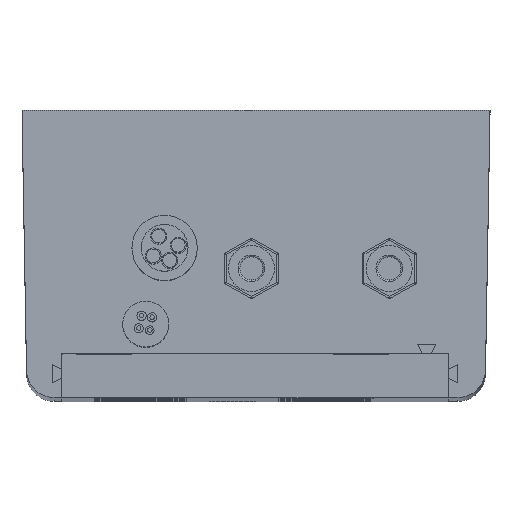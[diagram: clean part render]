
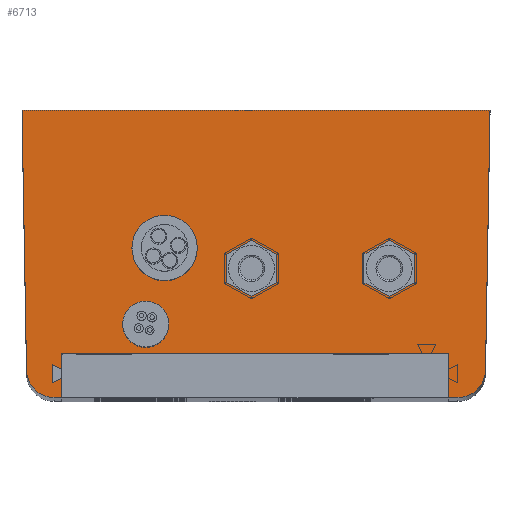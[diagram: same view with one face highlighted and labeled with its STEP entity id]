
A CAD part, top view. The second image highlights one B-rep face of the part: STEP entity #6713.
In plain terms, the highlighted planar face has unit normal (0, 0, 1).
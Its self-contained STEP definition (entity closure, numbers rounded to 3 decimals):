
#40 = VECTOR ( 'NONE', #7211, 1000. ) ;
#47 = CARTESIAN_POINT ( 'NONE',  ( 17.563, 1.831, 0. ) ) ;
#180 = CARTESIAN_POINT ( 'NONE',  ( 0.063, 1.831, 0. ) ) ;
#441 = LINE ( 'NONE', #8134, #2790 ) ;
#561 = CARTESIAN_POINT ( 'NONE',  ( -21.406, -12.219, 0. ) ) ;
#616 = VECTOR ( 'NONE', #10740, 1000. ) ;
#723 = EDGE_CURVE ( 'NONE', #6663, #7367, #10561, .T. ) ;
#737 = DIRECTION ( 'NONE',  ( 1., 0., 0. ) ) ;
#780 = DIRECTION ( 'NONE',  ( 0.017, -1., 0. ) ) ;
#967 = EDGE_CURVE ( 'NONE', #12152, #2223, #3503, .T. ) ;
#985 = VERTEX_POINT ( 'NONE', #10590 ) ;
#1076 = EDGE_CURVE ( 'NONE', #1430, #12152, #3982, .T. ) ;
#1206 = CARTESIAN_POINT ( 'NONE',  ( 21.473, -12.219, 0. ) ) ;
#1251 = CIRCLE ( 'NONE', #2307, 2.5 ) ;
#1396 = CARTESIAN_POINT ( 'NONE',  ( -24.9, 19.031, 0. ) ) ;
#1415 = ORIENTED_EDGE ( 'NONE', *, *, #9500, .T. ) ;
#1430 = VERTEX_POINT ( 'NONE', #1206 ) ;
#1625 = LINE ( 'NONE', #9828, #10107 ) ;
#1940 = EDGE_CURVE ( 'NONE', #10416, #10076, #10154, .T. ) ;
#2206 = CARTESIAN_POINT ( 'NONE',  ( 21.473, -7.469, 0. ) ) ;
#2223 = VERTEX_POINT ( 'NONE', #2503 ) ;
#2307 = AXIS2_PLACEMENT_3D ( 'NONE', #7626, #14334, #737 ) ;
#2503 = CARTESIAN_POINT ( 'NONE',  ( -20.587, -7.469, 0. ) ) ;
#2638 = DIRECTION ( 'NONE',  ( 1., 0., 0. ) ) ;
#2790 = VECTOR ( 'NONE', #9142, 1000. ) ;
#2975 = FACE_BOUND ( 'NONE', #6816, .T. ) ;
#2987 = DIRECTION ( 'NONE',  ( 0.017, 1., 0. ) ) ;
#3027 = CARTESIAN_POINT ( 'NONE',  ( 22.532, -12.219, 0. ) ) ;
#3222 = VECTOR ( 'NONE', #780, 1000. ) ;
#3313 = ORIENTED_EDGE ( 'NONE', *, *, #967, .F. ) ;
#3503 = LINE ( 'NONE', #9641, #616 ) ;
#3576 = DIRECTION ( 'NONE',  ( 1., 0., 0. ) ) ;
#3623 = ORIENTED_EDGE ( 'NONE', *, *, #1940, .T. ) ;
#3657 = CARTESIAN_POINT ( 'NONE',  ( -24.406, -9.271, 0. ) ) ;
#3792 = CIRCLE ( 'NONE', #10862, 2.5 ) ;
#3841 = VECTOR ( 'NONE', #10789, 1000. ) ;
#3982 = LINE ( 'NONE', #12931, #3841 ) ;
#4001 = VECTOR ( 'NONE', #8678, 1000. ) ;
#4162 = CARTESIAN_POINT ( 'NONE',  ( -24.56, -0.429, 0. ) ) ;
#4217 = ORIENTED_EDGE ( 'NONE', *, *, #723, .F. ) ;
#4227 = AXIS2_PLACEMENT_3D ( 'NONE', #4841, #9300, #3576 ) ;
#4235 = CARTESIAN_POINT ( 'NONE',  ( -20.587, -12.219, 0. ) ) ;
#4246 = EDGE_CURVE ( 'NONE', #7367, #6663, #1251, .T. ) ;
#4294 = EDGE_CURVE ( 'NONE', #12557, #14041, #8329, .T. ) ;
#4841 = CARTESIAN_POINT ( 'NONE',  ( 0., 0., 0. ) ) ;
#5233 = EDGE_CURVE ( 'NONE', #13995, #10416, #13805, .T. ) ;
#5247 = LINE ( 'NONE', #4162, #3222 ) ;
#5596 = CARTESIAN_POINT ( 'NONE',  ( 15.063, 1.831, 0. ) ) ;
#5658 = CARTESIAN_POINT ( 'NONE',  ( -2.437, 1.831, 0. ) ) ;
#5962 = PLANE ( 'NONE',  #4227 ) ;
#6196 = AXIS2_PLACEMENT_3D ( 'NONE', #8423, #14299, #2638 ) ;
#6266 = DIRECTION ( 'NONE',  ( 1., 0., 0. ) ) ;
#6282 = ORIENTED_EDGE ( 'NONE', *, *, #13312, .T. ) ;
#6368 = DIRECTION ( 'NONE',  ( 1., 0., 0. ) ) ;
#6663 = VERTEX_POINT ( 'NONE', #5658 ) ;
#6713 = ADVANCED_FACE ( 'NONE', ( #11087, #2975, #13259 ), #5962, .T. ) ;
#6718 = VECTOR ( 'NONE', #12632, 1000. ) ;
#6816 = EDGE_LOOP ( 'NONE', ( #11449, #7350 ) ) ;
#7211 = DIRECTION ( 'NONE',  ( 0., -1., 0. ) ) ;
#7350 = ORIENTED_EDGE ( 'NONE', *, *, #9020, .F. ) ;
#7367 = VERTEX_POINT ( 'NONE', #9640 ) ;
#7626 = CARTESIAN_POINT ( 'NONE',  ( 0.063, 1.831, 0. ) ) ;
#7934 = DIRECTION ( 'NONE',  ( 1., 0., 0. ) ) ;
#7977 = EDGE_CURVE ( 'NONE', #11462, #9758, #8192, .T. ) ;
#8134 = CARTESIAN_POINT ( 'NONE',  ( -24.437, -12.219, 0. ) ) ;
#8192 = LINE ( 'NONE', #10909, #4001 ) ;
#8255 = CARTESIAN_POINT ( 'NONE',  ( 25.531, -9.271, 0. ) ) ;
#8288 = AXIS2_PLACEMENT_3D ( 'NONE', #14414, #9880, #6266 ) ;
#8329 = CIRCLE ( 'NONE', #10900, 3. ) ;
#8345 = CARTESIAN_POINT ( 'NONE',  ( -20.587, -12.219, 0. ) ) ;
#8423 = CARTESIAN_POINT ( 'NONE',  ( -21.406, -9.219, 0. ) ) ;
#8678 = DIRECTION ( 'NONE',  ( -1., 0., 0. ) ) ;
#8748 = ORIENTED_EDGE ( 'NONE', *, *, #7977, .T. ) ;
#9020 = EDGE_CURVE ( 'NONE', #985, #10738, #3792, .T. ) ;
#9097 = DIRECTION ( 'NONE',  ( 0., 0., 1. ) ) ;
#9142 = DIRECTION ( 'NONE',  ( 1., 0., 0. ) ) ;
#9300 = DIRECTION ( 'NONE',  ( 0., 0., 1. ) ) ;
#9378 = ORIENTED_EDGE ( 'NONE', *, *, #9987, .T. ) ;
#9500 = EDGE_CURVE ( 'NONE', #9758, #13995, #5247, .T. ) ;
#9586 = EDGE_LOOP ( 'NONE', ( #1415, #13373, #3623, #11474, #3313, #14162, #6282, #12304, #9378, #8748 ) ) ;
#9640 = CARTESIAN_POINT ( 'NONE',  ( 2.563, 1.831, 0. ) ) ;
#9641 = CARTESIAN_POINT ( 'NONE',  ( -20.587, -7.469, 0. ) ) ;
#9758 = VERTEX_POINT ( 'NONE', #1396 ) ;
#9828 = CARTESIAN_POINT ( 'NONE',  ( 25.685, -0.448, 0. ) ) ;
#9880 = DIRECTION ( 'NONE',  ( 0., 0., 1. ) ) ;
#9987 = EDGE_CURVE ( 'NONE', #14041, #11462, #1625, .T. ) ;
#10044 = CARTESIAN_POINT ( 'NONE',  ( 26.025, 19.031, 0. ) ) ;
#10076 = VERTEX_POINT ( 'NONE', #4235 ) ;
#10107 = VECTOR ( 'NONE', #2987, 1000. ) ;
#10154 = LINE ( 'NONE', #11669, #6718 ) ;
#10416 = VERTEX_POINT ( 'NONE', #561 ) ;
#10479 = DIRECTION ( 'NONE',  ( 0., 0., 1. ) ) ;
#10561 = CIRCLE ( 'NONE', #14150, 2.5 ) ;
#10590 = CARTESIAN_POINT ( 'NONE',  ( 12.563, 1.831, 0. ) ) ;
#10738 = VERTEX_POINT ( 'NONE', #47 ) ;
#10740 = DIRECTION ( 'NONE',  ( -1., 0., 0. ) ) ;
#10789 = DIRECTION ( 'NONE',  ( 0., 1., 0. ) ) ;
#10862 = AXIS2_PLACEMENT_3D ( 'NONE', #5596, #9097, #7934 ) ;
#10900 = AXIS2_PLACEMENT_3D ( 'NONE', #13244, #14520, #6368 ) ;
#10909 = CARTESIAN_POINT ( 'NONE',  ( -24.437, 19.031, 0. ) ) ;
#11087 = FACE_BOUND ( 'NONE', #13494, .T. ) ;
#11449 = ORIENTED_EDGE ( 'NONE', *, *, #14793, .F. ) ;
#11462 = VERTEX_POINT ( 'NONE', #10044 ) ;
#11474 = ORIENTED_EDGE ( 'NONE', *, *, #14690, .F. ) ;
#11571 = DIRECTION ( 'NONE',  ( 1., 0., 0. ) ) ;
#11669 = CARTESIAN_POINT ( 'NONE',  ( -24.437, -12.219, 0. ) ) ;
#11747 = LINE ( 'NONE', #8345, #40 ) ;
#12152 = VERTEX_POINT ( 'NONE', #2206 ) ;
#12304 = ORIENTED_EDGE ( 'NONE', *, *, #4294, .T. ) ;
#12464 = CIRCLE ( 'NONE', #8288, 2.5 ) ;
#12557 = VERTEX_POINT ( 'NONE', #3027 ) ;
#12632 = DIRECTION ( 'NONE',  ( 1., 0., 0. ) ) ;
#12931 = CARTESIAN_POINT ( 'NONE',  ( 21.473, -12.219, 0. ) ) ;
#13244 = CARTESIAN_POINT ( 'NONE',  ( 22.532, -9.219, 0. ) ) ;
#13259 = FACE_OUTER_BOUND ( 'NONE', #9586, .T. ) ;
#13312 = EDGE_CURVE ( 'NONE', #1430, #12557, #441, .T. ) ;
#13373 = ORIENTED_EDGE ( 'NONE', *, *, #5233, .T. ) ;
#13494 = EDGE_LOOP ( 'NONE', ( #14546, #4217 ) ) ;
#13805 = CIRCLE ( 'NONE', #6196, 3. ) ;
#13995 = VERTEX_POINT ( 'NONE', #3657 ) ;
#14041 = VERTEX_POINT ( 'NONE', #8255 ) ;
#14150 = AXIS2_PLACEMENT_3D ( 'NONE', #180, #10479, #11571 ) ;
#14162 = ORIENTED_EDGE ( 'NONE', *, *, #1076, .F. ) ;
#14299 = DIRECTION ( 'NONE',  ( 0., 0., 1. ) ) ;
#14334 = DIRECTION ( 'NONE',  ( 0., 0., 1. ) ) ;
#14414 = CARTESIAN_POINT ( 'NONE',  ( 15.063, 1.831, 0. ) ) ;
#14520 = DIRECTION ( 'NONE',  ( 0., 0., 1. ) ) ;
#14546 = ORIENTED_EDGE ( 'NONE', *, *, #4246, .F. ) ;
#14690 = EDGE_CURVE ( 'NONE', #2223, #10076, #11747, .T. ) ;
#14793 = EDGE_CURVE ( 'NONE', #10738, #985, #12464, .T. ) ;
